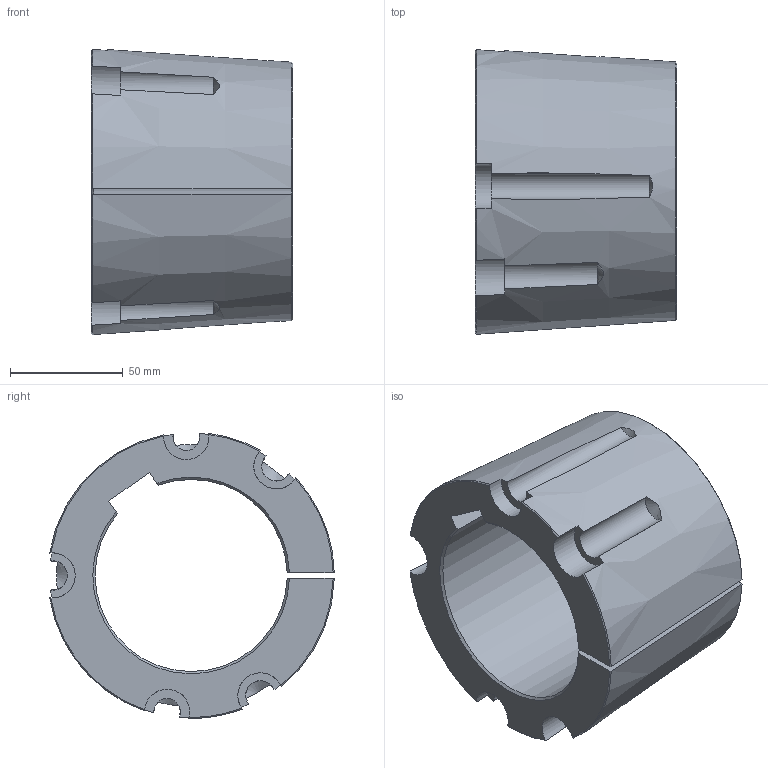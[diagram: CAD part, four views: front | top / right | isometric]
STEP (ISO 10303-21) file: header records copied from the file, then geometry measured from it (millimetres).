
FILE_DESCRIPTION(/* description */ (''),/* implementation_level */ '2;1');
FILE_NAME(/* name */ 'C:\Users\stagistaCAD\Desktop\Nuova cartella\29353585.stp',/* time_stamp */ '2018-06-28T15:16:48+02:00',/* author */ ('stagistacad'),/* organization */ (''),/* preprocessor_version */ 'ST-DEVELOPER v15.6',/* originating_system */ 'Autodesk Inventor 2015',/* authorisation */ '');
FILE_SCHEMA (('AUTOMOTIVE_DESIGN { 1 0 10303 214 3 1 1 }'));
Length unit declared in the file: millimetre
Products named in the file (1): 29353585
Bounding box: 89 x 125.93 x 126.24 mm (x, y, z)
Volume: 472417.5 mm3; surface area: 74101.2 mm2
Topology: 1 solids, 1 shells, 43 faces, 123 edges, 82 vertices
Faces by surface type: cone 17, cylinder 14, plane 12
Entity records: 1592 total; most frequent: CARTESIAN_POINT 472, ORIENTED_EDGE 246, DIRECTION 226, EDGE_CURVE 123, AXIS2_PLACEMENT_3D 100, VERTEX_POINT 82, CIRCLE 56, FACE_OUTER_BOUND 43
